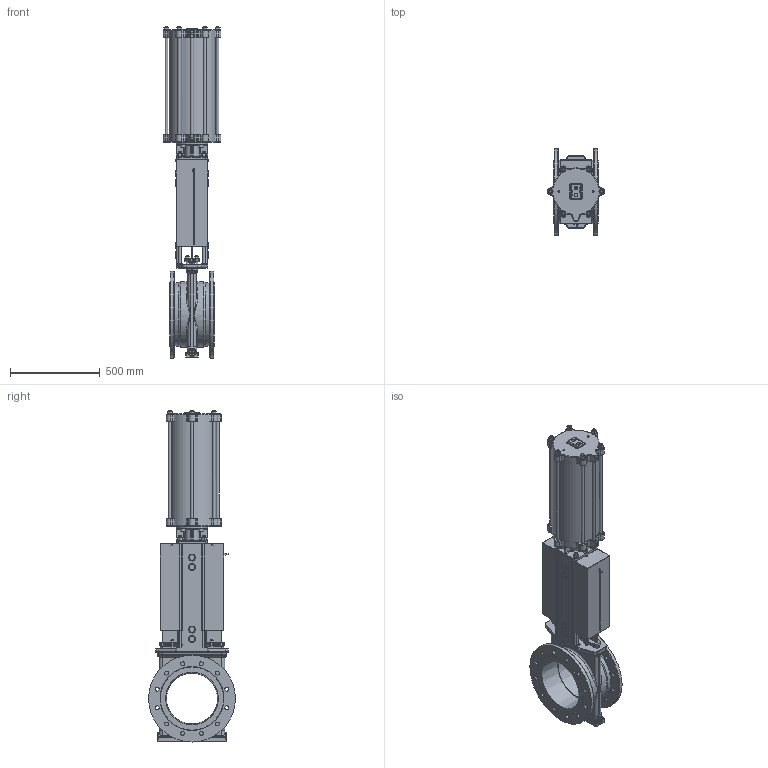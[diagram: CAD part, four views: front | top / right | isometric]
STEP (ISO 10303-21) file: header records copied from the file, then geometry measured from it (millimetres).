
FILE_DESCRIPTION(/* description */ (''),/* implementation_level */ '2;1');
FILE_NAME(/* name */ 'F:\Emir\3D-block special\SLV\SLF-DN300-PN10-FRSC250-400_Shrinkwrap_1.stp',/* time_stamp */ '2018-10-03T10:34:19+02:00',/* author */ ('emimus'),/* organization */ (''),/* preprocessor_version */ 'ST-DEVELOPER v17.2',/* originating_system */ 'Autodesk Inventor 2019',/* authorisation */ '');
FILE_SCHEMA (('CONFIG_CONTROL_DESIGN'));
Products named in the file (1): SLF-DN300-PN10-FRSC250-400_Shrinkwrap_1
Bounding box: 322 x 483 x 1844.5 mm (x, y, z)
Volume: 30557471.7 mm3; surface area: 6130719.2 mm2
Topology: 1 solids, 1 shells, 2388 faces, 5997 edges, 3719 vertices
Faces by surface type: plane 838, cylinder 756, torus 303, bspline 215, cone 160, sphere 116
Full cylindrical faces by diameter (mm): 3.5 x8, 3.6 x10, 4 x2, 4.917 x8, 6.4 x1, 6.647 x4, 7 x1, 7.5 x4, 8.376 x14, 9.5 x2, 10.106 x2, 12 x9, 12.5 x6, 13 x10, 14 x7, 15 x4, 16 x24, 17 x10, 17.5 x6, 18 x2, 18.2 x4, 18.5 x2, 18.631 x2, 22 x24, 24 x16, 24.117 x2, 25 x4, 25.5 x1, 26 x2, 27 x1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
Entity records: 81652 total; most frequent: CARTESIAN_POINT 23847, DIRECTION 12741, ORIENTED_EDGE 11918, EDGE_CURVE 5959, AXIS2_PLACEMENT_3D 5257, VERTEX_POINT 3719, CIRCLE 2987, EDGE_LOOP 2730
